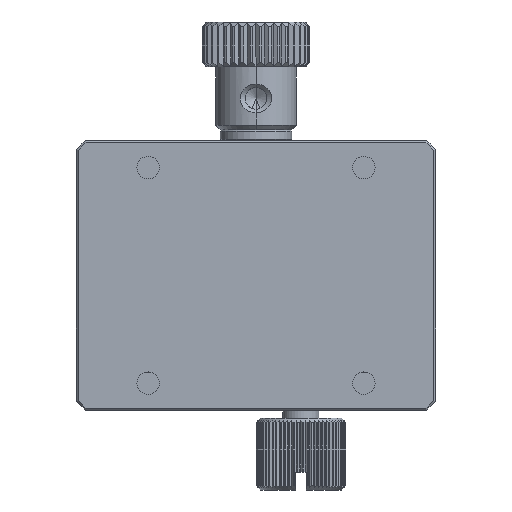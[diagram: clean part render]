
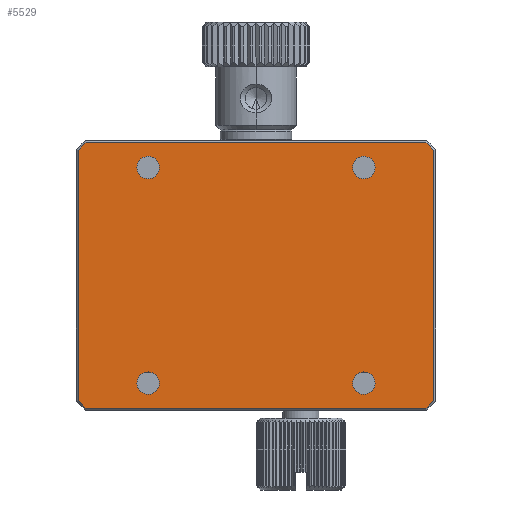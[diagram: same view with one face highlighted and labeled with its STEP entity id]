
A CAD part, front view. The second image highlights one B-rep face of the part: STEP entity #5529.
In plain terms, the highlighted planar face has unit normal (0, -1, 0).
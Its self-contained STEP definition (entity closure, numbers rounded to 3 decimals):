
#106=CARTESIAN_POINT('',(-12.,-11.3,-12.));
#107=DIRECTION('',(0.,1.,0.));
#108=DIRECTION('',(1.,0.,0.));
#109=AXIS2_PLACEMENT_3D('',#106,#107,#108);
#111=CARTESIAN_POINT('',(-12.,-11.3,-12.));
#112=DIRECTION('',(0.,1.,0.));
#113=DIRECTION('',(-1.,0.,0.));
#114=AXIS2_PLACEMENT_3D('',#111,#112,#113);
#116=CARTESIAN_POINT('',(12.,-11.3,-12.));
#117=DIRECTION('',(0.,1.,0.));
#118=DIRECTION('',(1.,0.,0.));
#119=AXIS2_PLACEMENT_3D('',#116,#117,#118);
#121=CARTESIAN_POINT('',(12.,-11.3,-12.));
#122=DIRECTION('',(0.,1.,0.));
#123=DIRECTION('',(-1.,0.,0.));
#124=AXIS2_PLACEMENT_3D('',#121,#122,#123);
#126=CARTESIAN_POINT('',(-12.,-11.3,12.));
#127=DIRECTION('',(0.,1.,0.));
#128=DIRECTION('',(1.,0.,0.));
#129=AXIS2_PLACEMENT_3D('',#126,#127,#128);
#131=CARTESIAN_POINT('',(-12.,-11.3,12.));
#132=DIRECTION('',(0.,1.,0.));
#133=DIRECTION('',(-1.,0.,0.));
#134=AXIS2_PLACEMENT_3D('',#131,#132,#133);
#136=CARTESIAN_POINT('',(12.,-11.3,12.));
#137=DIRECTION('',(0.,1.,0.));
#138=DIRECTION('',(1.,0.,0.));
#139=AXIS2_PLACEMENT_3D('',#136,#137,#138);
#141=CARTESIAN_POINT('',(12.,-11.3,12.));
#142=DIRECTION('',(0.,1.,0.));
#143=DIRECTION('',(-1.,0.,0.));
#144=AXIS2_PLACEMENT_3D('',#141,#142,#143);
#146=DIRECTION('',(-0.707,0.,-0.707));
#147=VECTOR('',#146,1.249);
#148=CARTESIAN_POINT('',(-13.917,-11.3,19.8));
#149=LINE('',#148,#147);
#150=DIRECTION('',(-1.,0.,0.));
#151=VECTOR('',#150,27.834);
#152=CARTESIAN_POINT('',(13.917,-11.3,19.8));
#153=LINE('',#152,#151);
#154=DIRECTION('',(-0.707,0.,0.707));
#155=VECTOR('',#154,1.249);
#156=CARTESIAN_POINT('',(14.8,-11.3,18.917));
#157=LINE('',#156,#155);
#158=DIRECTION('',(0.,0.,1.));
#159=VECTOR('',#158,37.834);
#160=CARTESIAN_POINT('',(14.8,-11.3,-18.917));
#161=LINE('',#160,#159);
#162=DIRECTION('',(0.707,0.,0.707));
#163=VECTOR('',#162,1.249);
#164=CARTESIAN_POINT('',(13.917,-11.3,-19.8));
#165=LINE('',#164,#163);
#166=DIRECTION('',(1.,0.,0.));
#167=VECTOR('',#166,27.834);
#168=CARTESIAN_POINT('',(-13.917,-11.3,-19.8));
#169=LINE('',#168,#167);
#170=DIRECTION('',(0.707,0.,-0.707));
#171=VECTOR('',#170,1.249);
#172=CARTESIAN_POINT('',(-14.8,-11.3,-18.917));
#173=LINE('',#172,#171);
#174=DIRECTION('',(0.,0.,-1.));
#175=VECTOR('',#174,37.834);
#176=CARTESIAN_POINT('',(-14.8,-11.3,18.917));
#177=LINE('',#176,#175);
#4710=CARTESIAN_POINT('',(-10.75,-11.3,-12.));
#4711=CARTESIAN_POINT('',(-13.25,-11.3,-12.));
#4712=VERTEX_POINT('',#4710);
#4713=VERTEX_POINT('',#4711);
#4714=CARTESIAN_POINT('',(13.25,-11.3,-12.));
#4715=CARTESIAN_POINT('',(10.75,-11.3,-12.));
#4716=VERTEX_POINT('',#4714);
#4717=VERTEX_POINT('',#4715);
#4718=CARTESIAN_POINT('',(-10.75,-11.3,12.));
#4719=CARTESIAN_POINT('',(-13.25,-11.3,12.));
#4720=VERTEX_POINT('',#4718);
#4721=VERTEX_POINT('',#4719);
#4722=CARTESIAN_POINT('',(13.25,-11.3,12.));
#4723=CARTESIAN_POINT('',(10.75,-11.3,12.));
#4724=VERTEX_POINT('',#4722);
#4725=VERTEX_POINT('',#4723);
#5162=CARTESIAN_POINT('',(-13.917,-11.3,19.8));
#5163=CARTESIAN_POINT('',(-14.8,-11.3,18.917));
#5164=VERTEX_POINT('',#5162);
#5165=VERTEX_POINT('',#5163);
#5168=CARTESIAN_POINT('',(-14.8,-11.3,-18.917));
#5169=VERTEX_POINT('',#5168);
#5170=CARTESIAN_POINT('',(-13.917,-11.3,-19.8));
#5171=VERTEX_POINT('',#5170);
#5176=CARTESIAN_POINT('',(13.917,-11.3,-19.8));
#5177=VERTEX_POINT('',#5176);
#5178=CARTESIAN_POINT('',(14.8,-11.3,-18.917));
#5179=VERTEX_POINT('',#5178);
#5184=CARTESIAN_POINT('',(14.8,-11.3,18.917));
#5185=VERTEX_POINT('',#5184);
#5186=CARTESIAN_POINT('',(13.917,-11.3,19.8));
#5187=VERTEX_POINT('',#5186);
#5484=CARTESIAN_POINT('',(0.,-11.3,0.));
#5485=DIRECTION('',(0.,1.,0.));
#5486=DIRECTION('',(1.,0.,0.));
#5487=AXIS2_PLACEMENT_3D('',#5484,#5485,#5486);
#5488=PLANE('',#5487);
#5490=ORIENTED_EDGE('',*,*,#5489,.F.);
#5491=ORIENTED_EDGE('',*,*,#5462,.F.);
#5492=ORIENTED_EDGE('',*,*,#5474,.F.);
#5494=ORIENTED_EDGE('',*,*,#5493,.F.);
#5496=ORIENTED_EDGE('',*,*,#5495,.F.);
#5498=ORIENTED_EDGE('',*,*,#5497,.F.);
#5500=ORIENTED_EDGE('',*,*,#5499,.F.);
#5502=ORIENTED_EDGE('',*,*,#5501,.F.);
#5503=EDGE_LOOP('',(#5490,#5491,#5492,#5494,#5496,#5498,#5500,#5502));
#5504=FACE_OUTER_BOUND('',#5503,.F.);
#5506=ORIENTED_EDGE('',*,*,#5505,.F.);
#5508=ORIENTED_EDGE('',*,*,#5507,.F.);
#5509=EDGE_LOOP('',(#5506,#5508));
#5510=FACE_BOUND('',#5509,.F.);
#5512=ORIENTED_EDGE('',*,*,#5511,.F.);
#5514=ORIENTED_EDGE('',*,*,#5513,.F.);
#5515=EDGE_LOOP('',(#5512,#5514));
#5516=FACE_BOUND('',#5515,.F.);
#5518=ORIENTED_EDGE('',*,*,#5517,.F.);
#5520=ORIENTED_EDGE('',*,*,#5519,.F.);
#5521=EDGE_LOOP('',(#5518,#5520));
#5522=FACE_BOUND('',#5521,.F.);
#5524=ORIENTED_EDGE('',*,*,#5523,.F.);
#5526=ORIENTED_EDGE('',*,*,#5525,.F.);
#5527=EDGE_LOOP('',(#5524,#5526));
#5528=FACE_BOUND('',#5527,.F.);
#5529=ADVANCED_FACE('',(#5504,#5510,#5516,#5522,#5528),#5488,.F.);
#110=CIRCLE('',#109,1.25);
#115=CIRCLE('',#114,1.25);
#120=CIRCLE('',#119,1.25);
#125=CIRCLE('',#124,1.25);
#130=CIRCLE('',#129,1.25);
#135=CIRCLE('',#134,1.25);
#140=CIRCLE('',#139,1.25);
#145=CIRCLE('',#144,1.25);
#5462=EDGE_CURVE('',#5187,#5164,#153,.T.);
#5474=EDGE_CURVE('',#5185,#5187,#157,.T.);
#5489=EDGE_CURVE('',#5164,#5165,#149,.T.);
#5493=EDGE_CURVE('',#5179,#5185,#161,.T.);
#5495=EDGE_CURVE('',#5177,#5179,#165,.T.);
#5497=EDGE_CURVE('',#5171,#5177,#169,.T.);
#5499=EDGE_CURVE('',#5169,#5171,#173,.T.);
#5501=EDGE_CURVE('',#5165,#5169,#177,.T.);
#5505=EDGE_CURVE('',#4716,#4717,#120,.T.);
#5507=EDGE_CURVE('',#4717,#4716,#125,.T.);
#5511=EDGE_CURVE('',#4720,#4721,#130,.T.);
#5513=EDGE_CURVE('',#4721,#4720,#135,.T.);
#5517=EDGE_CURVE('',#4724,#4725,#140,.T.);
#5519=EDGE_CURVE('',#4725,#4724,#145,.T.);
#5523=EDGE_CURVE('',#4712,#4713,#110,.T.);
#5525=EDGE_CURVE('',#4713,#4712,#115,.T.);
